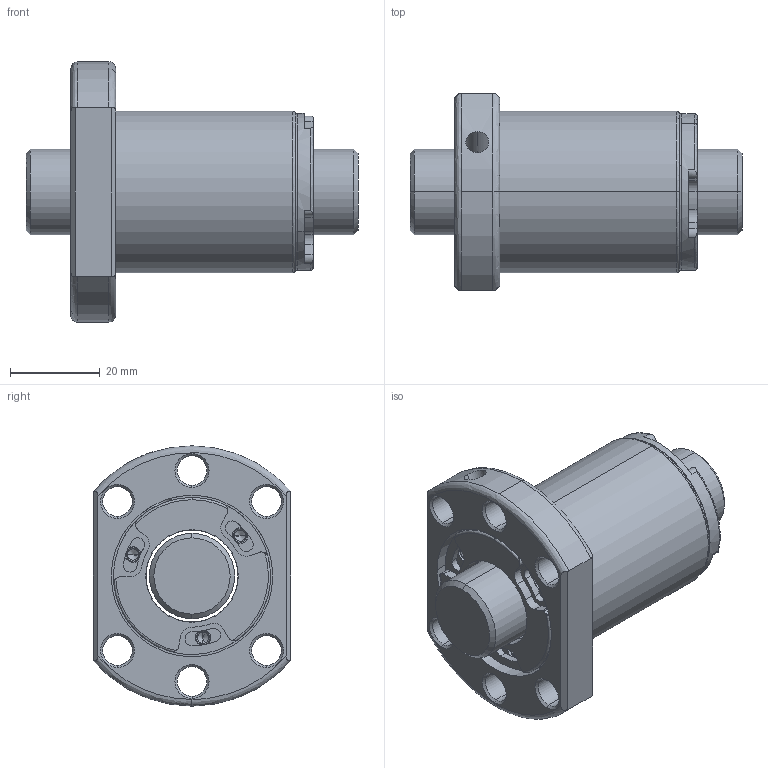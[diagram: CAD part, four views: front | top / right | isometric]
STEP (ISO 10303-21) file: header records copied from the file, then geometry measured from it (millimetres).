
FILE_DESCRIPTION (( 'STEP AP203' ), '1' );
FILE_NAME ('SFSR02020A1D-C.STEP', '2020-06-17T01:00:30', ( '' ), ( '' ), 'SwSTEP 2.0', 'SolidWorks 2013', '' );
FILE_SCHEMA (( 'CONFIG_CONTROL_DESIGN' ));
Length unit declared in the file: millimetre
Products named in the file (1): SFSR02020A1D-C
Bounding box: 74 x 44 x 58 mm (x, y, z)
Volume: 64591.2 mm3; surface area: 21479.5 mm2
Topology: 2 solids, 2 shells, 265 faces, 674 edges, 419 vertices
Faces by surface type: cylinder 129, plane 68, cone 52, bspline 16
Entity records: 8918 total; most frequent: CARTESIAN_POINT 2311, DIRECTION 1487, ORIENTED_EDGE 1324, EDGE_CURVE 662, AXIS2_PLACEMENT_3D 625, VERTEX_POINT 419, CIRCLE 375, EDGE_LOOP 301
